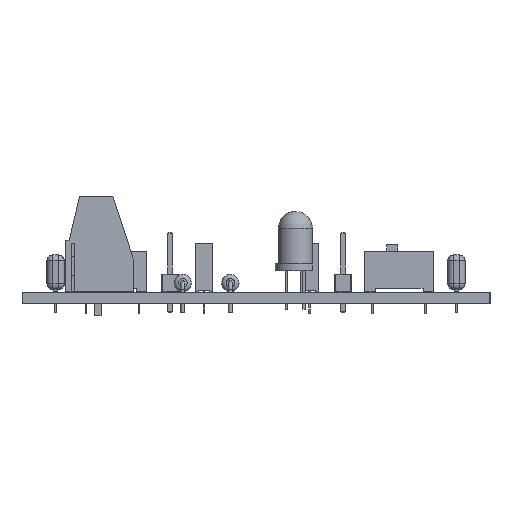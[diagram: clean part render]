
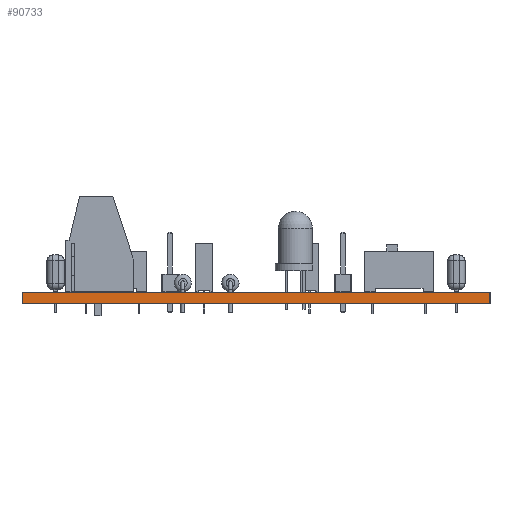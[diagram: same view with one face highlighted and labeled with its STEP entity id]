
A CAD part, left-side view. The second image highlights one B-rep face of the part: STEP entity #90733.
In plain terms, the highlighted planar face has unit normal (-1, 0, 0).
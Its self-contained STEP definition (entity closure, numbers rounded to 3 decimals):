
#82801 = PLANE('',#82802);
#82802 = AXIS2_PLACEMENT_3D('',#82803,#82804,#82805);
#82803 = CARTESIAN_POINT('',(-46.5,-33.75,0.));
#82804 = DIRECTION('',(0.,1.,0.));
#82805 = DIRECTION('',(1.,0.,0.));
#82829 = PLANE('',#82830);
#82830 = AXIS2_PLACEMENT_3D('',#82831,#82832,#82833);
#82831 = CARTESIAN_POINT('',(0.,0.,1.6));
#82832 = DIRECTION('',(0.,0.,1.));
#82833 = DIRECTION('',(1.,0.,0.));
#82857 = PLANE('',#82858);
#82858 = AXIS2_PLACEMENT_3D('',#82859,#82860,#82861);
#82859 = CARTESIAN_POINT('',(46.5,33.75,0.));
#82860 = DIRECTION('',(0.,-1.,0.));
#82861 = DIRECTION('',(-1.,0.,0.));
#82883 = PLANE('',#82884);
#82884 = AXIS2_PLACEMENT_3D('',#82885,#82886,#82887);
#82885 = CARTESIAN_POINT('',(0.,0.,0.));
#82886 = DIRECTION('',(0.,0.,1.));
#82887 = DIRECTION('',(1.,0.,0.));
#82898 = EDGE_CURVE('',#82899,#82901,#82903,.T.);
#82899 = VERTEX_POINT('',#82900);
#82900 = CARTESIAN_POINT('',(-46.5,-33.75,0.));
#82901 = VERTEX_POINT('',#82902);
#82902 = CARTESIAN_POINT('',(-46.5,-33.75,1.6));
#82903 = SURFACE_CURVE('',#82904,(#82908,#82915),.PCURVE_S1.);
#82904 = LINE('',#82905,#82906);
#82905 = CARTESIAN_POINT('',(-46.5,-33.75,0.));
#82906 = VECTOR('',#82907,1.);
#82907 = DIRECTION('',(0.,0.,1.));
#82908 = PCURVE('',#82801,#82909);
#82909 = DEFINITIONAL_REPRESENTATION('',(#82910),#82914);
#82910 = LINE('',#82911,#82912);
#82911 = CARTESIAN_POINT('',(0.,0.));
#82912 = VECTOR('',#82913,1.);
#82913 = DIRECTION('',(0.,-1.));
#82914 = ( GEOMETRIC_REPRESENTATION_CONTEXT(2) 
PARAMETRIC_REPRESENTATION_CONTEXT() REPRESENTATION_CONTEXT('2D SPACE',''
  ) );
#82915 = PCURVE('',#82916,#82921);
#82916 = PLANE('',#82917);
#82917 = AXIS2_PLACEMENT_3D('',#82918,#82919,#82920);
#82918 = CARTESIAN_POINT('',(-46.5,33.75,0.));
#82919 = DIRECTION('',(1.,0.,0.));
#82920 = DIRECTION('',(0.,-1.,0.));
#82921 = DEFINITIONAL_REPRESENTATION('',(#82922),#82926);
#82922 = LINE('',#82923,#82924);
#82923 = CARTESIAN_POINT('',(67.5,0.));
#82924 = VECTOR('',#82925,1.);
#82925 = DIRECTION('',(0.,-1.));
#82926 = ( GEOMETRIC_REPRESENTATION_CONTEXT(2) 
PARAMETRIC_REPRESENTATION_CONTEXT() REPRESENTATION_CONTEXT('2D SPACE',''
  ) );
#82976 = VERTEX_POINT('',#82977);
#82977 = CARTESIAN_POINT('',(-46.5,33.75,1.6));
#82998 = EDGE_CURVE('',#82999,#82976,#83001,.T.);
#82999 = VERTEX_POINT('',#83000);
#83000 = CARTESIAN_POINT('',(-46.5,33.75,0.));
#83001 = SURFACE_CURVE('',#83002,(#83006,#83013),.PCURVE_S1.);
#83002 = LINE('',#83003,#83004);
#83003 = CARTESIAN_POINT('',(-46.5,33.75,0.));
#83004 = VECTOR('',#83005,1.);
#83005 = DIRECTION('',(0.,0.,1.));
#83006 = PCURVE('',#82857,#83007);
#83007 = DEFINITIONAL_REPRESENTATION('',(#83008),#83012);
#83008 = LINE('',#83009,#83010);
#83009 = CARTESIAN_POINT('',(93.,0.));
#83010 = VECTOR('',#83011,1.);
#83011 = DIRECTION('',(0.,-1.));
#83012 = ( GEOMETRIC_REPRESENTATION_CONTEXT(2) 
PARAMETRIC_REPRESENTATION_CONTEXT() REPRESENTATION_CONTEXT('2D SPACE',''
  ) );
#83013 = PCURVE('',#82916,#83014);
#83014 = DEFINITIONAL_REPRESENTATION('',(#83015),#83019);
#83015 = LINE('',#83016,#83017);
#83016 = CARTESIAN_POINT('',(0.,0.));
#83017 = VECTOR('',#83018,1.);
#83018 = DIRECTION('',(0.,-1.));
#83019 = ( GEOMETRIC_REPRESENTATION_CONTEXT(2) 
PARAMETRIC_REPRESENTATION_CONTEXT() REPRESENTATION_CONTEXT('2D SPACE',''
  ) );
#83047 = EDGE_CURVE('',#82999,#82899,#83048,.T.);
#83048 = SURFACE_CURVE('',#83049,(#83053,#83060),.PCURVE_S1.);
#83049 = LINE('',#83050,#83051);
#83050 = CARTESIAN_POINT('',(-46.5,33.75,0.));
#83051 = VECTOR('',#83052,1.);
#83052 = DIRECTION('',(0.,-1.,0.));
#83053 = PCURVE('',#82883,#83054);
#83054 = DEFINITIONAL_REPRESENTATION('',(#83055),#83059);
#83055 = LINE('',#83056,#83057);
#83056 = CARTESIAN_POINT('',(-46.5,33.75));
#83057 = VECTOR('',#83058,1.);
#83058 = DIRECTION('',(0.,-1.));
#83059 = ( GEOMETRIC_REPRESENTATION_CONTEXT(2) 
PARAMETRIC_REPRESENTATION_CONTEXT() REPRESENTATION_CONTEXT('2D SPACE',''
  ) );
#83060 = PCURVE('',#82916,#83061);
#83061 = DEFINITIONAL_REPRESENTATION('',(#83062),#83066);
#83062 = LINE('',#83063,#83064);
#83063 = CARTESIAN_POINT('',(0.,0.));
#83064 = VECTOR('',#83065,1.);
#83065 = DIRECTION('',(1.,0.));
#83066 = ( GEOMETRIC_REPRESENTATION_CONTEXT(2) 
PARAMETRIC_REPRESENTATION_CONTEXT() REPRESENTATION_CONTEXT('2D SPACE',''
  ) );
#87228 = EDGE_CURVE('',#82976,#82901,#87229,.T.);
#87229 = SURFACE_CURVE('',#87230,(#87234,#87241),.PCURVE_S1.);
#87230 = LINE('',#87231,#87232);
#87231 = CARTESIAN_POINT('',(-46.5,33.75,1.6));
#87232 = VECTOR('',#87233,1.);
#87233 = DIRECTION('',(0.,-1.,0.));
#87234 = PCURVE('',#82829,#87235);
#87235 = DEFINITIONAL_REPRESENTATION('',(#87236),#87240);
#87236 = LINE('',#87237,#87238);
#87237 = CARTESIAN_POINT('',(-46.5,33.75));
#87238 = VECTOR('',#87239,1.);
#87239 = DIRECTION('',(0.,-1.));
#87240 = ( GEOMETRIC_REPRESENTATION_CONTEXT(2) 
PARAMETRIC_REPRESENTATION_CONTEXT() REPRESENTATION_CONTEXT('2D SPACE',''
  ) );
#87241 = PCURVE('',#82916,#87242);
#87242 = DEFINITIONAL_REPRESENTATION('',(#87243),#87247);
#87243 = LINE('',#87244,#87245);
#87244 = CARTESIAN_POINT('',(0.,-1.6));
#87245 = VECTOR('',#87246,1.);
#87246 = DIRECTION('',(1.,0.));
#87247 = ( GEOMETRIC_REPRESENTATION_CONTEXT(2) 
PARAMETRIC_REPRESENTATION_CONTEXT() REPRESENTATION_CONTEXT('2D SPACE',''
  ) );
#90733 = ADVANCED_FACE('',(#90734),#82916,.F.);
#90734 = FACE_BOUND('',#90735,.F.);
#90735 = EDGE_LOOP('',(#90736,#90737,#90738,#90739));
#90736 = ORIENTED_EDGE('',*,*,#82998,.T.);
#90737 = ORIENTED_EDGE('',*,*,#87228,.T.);
#90738 = ORIENTED_EDGE('',*,*,#82898,.F.);
#90739 = ORIENTED_EDGE('',*,*,#83047,.F.);
